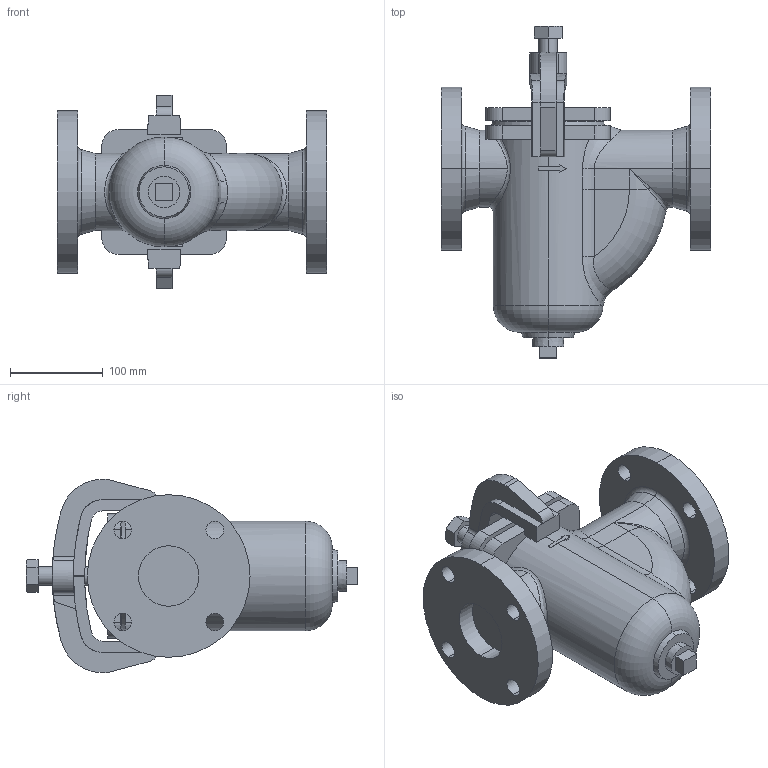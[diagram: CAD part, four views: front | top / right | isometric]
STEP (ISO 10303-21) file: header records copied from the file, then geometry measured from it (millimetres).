
FILE_DESCRIPTION (( 'STEP AP203' ), '1' );
FILE_NAME ('SU-20S 65A.STEP', '2025-12-15T02:26:26', ( '' ), ( '' ), 'SwSTEP 2.0', 'SolidWorks 2024', '' );
FILE_SCHEMA (( 'CONFIG_CONTROL_DESIGN' ));
Length unit declared in the file: millimetre
Products named in the file (4): SU-20S 65A; SU-20S Body-P 65A; SU-20S Arm 65A; SU-20S Bolt 32-65A
Assembly tree (3 placements, depth 2):
  SU-20S 65A
    SU-20S Body-P 65A
    SU-20S Arm 65A
    SU-20S Bolt 32-65A
Bounding box: 290 x 357.1 x 208 mm (x, y, z)
Volume: 5099027.5 mm3; surface area: 346415.7 mm2
Topology: 3 solids, 3 shells, 201 faces, 509 edges, 323 vertices
Faces by surface type: plane 84, cylinder 77, cone 19, bspline 8, torus 7, sphere 6
Entity records: 8494 total; most frequent: CARTESIAN_POINT 3276, ORIENTED_EDGE 1014, DIRECTION 1008, EDGE_CURVE 507, AXIS2_PLACEMENT_3D 381, VERTEX_POINT 323, VECTOR 246, LINE 246
